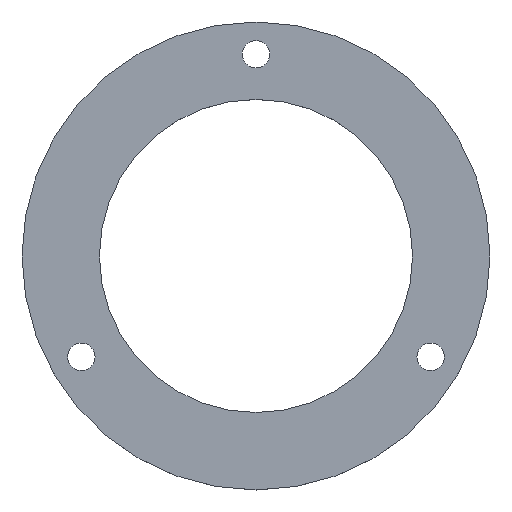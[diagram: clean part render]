
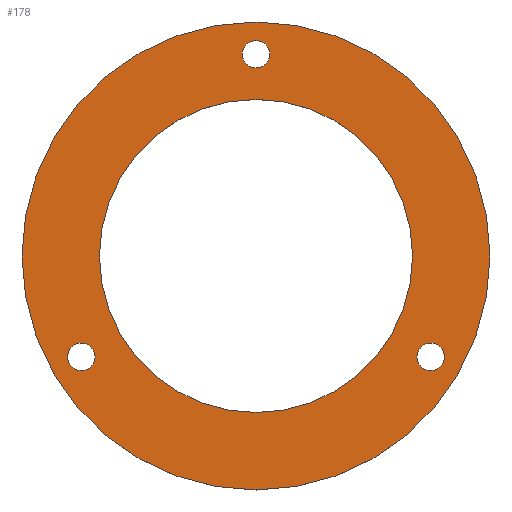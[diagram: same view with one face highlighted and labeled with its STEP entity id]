
A CAD part, top view. The second image highlights one B-rep face of the part: STEP entity #178.
In plain terms, the highlighted planar face has unit normal (0, 0, 1).
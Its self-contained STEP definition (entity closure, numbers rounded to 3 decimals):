
#40 = VERTEX_POINT('',#41);
#41 = CARTESIAN_POINT('',(29.,0.,2.2));
#50 = CYLINDRICAL_SURFACE('',#51,29.);
#51 = AXIS2_PLACEMENT_3D('',#52,#53,#54);
#52 = CARTESIAN_POINT('',(0.,0.,2.2));
#53 = DIRECTION('',(-0.,0.,1.));
#54 = DIRECTION('',(1.,0.,0.));
#97 = EDGE_CURVE('',#40,#40,#98,.T.);
#98 = SURFACE_CURVE('',#99,(#104,#111),.PCURVE_S1.);
#99 = CIRCLE('',#100,29.);
#100 = AXIS2_PLACEMENT_3D('',#101,#102,#103);
#101 = CARTESIAN_POINT('',(0.,0.,2.2));
#102 = DIRECTION('',(0.,0.,-1.));
#103 = DIRECTION('',(1.,0.,0.));
#104 = PCURVE('',#50,#105);
#105 = DEFINITIONAL_REPRESENTATION('',(#106),#110);
#106 = LINE('',#107,#108);
#107 = CARTESIAN_POINT('',(-0.,0.));
#108 = VECTOR('',#109,1.);
#109 = DIRECTION('',(-1.,0.));
#110 = ( GEOMETRIC_REPRESENTATION_CONTEXT(2) 
PARAMETRIC_REPRESENTATION_CONTEXT() REPRESENTATION_CONTEXT('2D SPACE',''
  ) );
#111 = PCURVE('',#112,#117);
#112 = PLANE('',#113);
#113 = AXIS2_PLACEMENT_3D('',#114,#115,#116);
#114 = CARTESIAN_POINT('',(0.,0.,2.2)
  );
#115 = DIRECTION('',(0.,0.,-1.));
#116 = DIRECTION('',(1.,0.,0.));
#117 = DEFINITIONAL_REPRESENTATION('',(#118),#122);
#118 = CIRCLE('',#119,29.);
#119 = AXIS2_PLACEMENT_2D('',#120,#121);
#120 = CARTESIAN_POINT('',(0.,0.));
#121 = DIRECTION('',(1.,0.));
#122 = ( GEOMETRIC_REPRESENTATION_CONTEXT(2) 
PARAMETRIC_REPRESENTATION_CONTEXT() REPRESENTATION_CONTEXT('2D SPACE',''
  ) );
#178 = ADVANCED_FACE('',(#179,#182,#213,#244,#275),#112,.F.);
#179 = FACE_BOUND('',#180,.F.);
#180 = EDGE_LOOP('',(#181));
#181 = ORIENTED_EDGE('',*,*,#97,.T.);
#182 = FACE_BOUND('',#183,.F.);
#183 = EDGE_LOOP('',(#184));
#184 = ORIENTED_EDGE('',*,*,#185,.F.);
#185 = EDGE_CURVE('',#186,#186,#188,.T.);
#186 = VERTEX_POINT('',#187);
#187 = CARTESIAN_POINT('',(1.7,25.,2.2));
#188 = SURFACE_CURVE('',#189,(#194,#201),.PCURVE_S1.);
#189 = CIRCLE('',#190,1.7);
#190 = AXIS2_PLACEMENT_3D('',#191,#192,#193);
#191 = CARTESIAN_POINT('',(0.,25.,2.2));
#192 = DIRECTION('',(0.,0.,-1.));
#193 = DIRECTION('',(1.,0.,0.));
#194 = PCURVE('',#112,#195);
#195 = DEFINITIONAL_REPRESENTATION('',(#196),#200);
#196 = CIRCLE('',#197,1.7);
#197 = AXIS2_PLACEMENT_2D('',#198,#199);
#198 = CARTESIAN_POINT('',(0.,-25.));
#199 = DIRECTION('',(1.,0.));
#200 = ( GEOMETRIC_REPRESENTATION_CONTEXT(2) 
PARAMETRIC_REPRESENTATION_CONTEXT() REPRESENTATION_CONTEXT('2D SPACE',''
  ) );
#201 = PCURVE('',#202,#207);
#202 = CYLINDRICAL_SURFACE('',#203,1.7);
#203 = AXIS2_PLACEMENT_3D('',#204,#205,#206);
#204 = CARTESIAN_POINT('',(0.,25.,2.2));
#205 = DIRECTION('',(-0.,0.,1.));
#206 = DIRECTION('',(1.,0.,0.));
#207 = DEFINITIONAL_REPRESENTATION('',(#208),#212);
#208 = LINE('',#209,#210);
#209 = CARTESIAN_POINT('',(-0.,0.));
#210 = VECTOR('',#211,1.);
#211 = DIRECTION('',(-1.,0.));
#212 = ( GEOMETRIC_REPRESENTATION_CONTEXT(2) 
PARAMETRIC_REPRESENTATION_CONTEXT() REPRESENTATION_CONTEXT('2D SPACE',''
  ) );
#213 = FACE_BOUND('',#214,.F.);
#214 = EDGE_LOOP('',(#215));
#215 = ORIENTED_EDGE('',*,*,#216,.F.);
#216 = EDGE_CURVE('',#217,#217,#219,.T.);
#217 = VERTEX_POINT('',#218);
#218 = CARTESIAN_POINT('',(-19.951,-12.5,2.2));
#219 = SURFACE_CURVE('',#220,(#225,#232),.PCURVE_S1.);
#220 = CIRCLE('',#221,1.7);
#221 = AXIS2_PLACEMENT_3D('',#222,#223,#224);
#222 = CARTESIAN_POINT('',(-21.651,-12.5,2.2));
#223 = DIRECTION('',(0.,0.,-1.));
#224 = DIRECTION('',(1.,0.,0.));
#225 = PCURVE('',#112,#226);
#226 = DEFINITIONAL_REPRESENTATION('',(#227),#231);
#227 = CIRCLE('',#228,1.7);
#228 = AXIS2_PLACEMENT_2D('',#229,#230);
#229 = CARTESIAN_POINT('',(-21.651,12.5));
#230 = DIRECTION('',(1.,0.));
#231 = ( GEOMETRIC_REPRESENTATION_CONTEXT(2) 
PARAMETRIC_REPRESENTATION_CONTEXT() REPRESENTATION_CONTEXT('2D SPACE',''
  ) );
#232 = PCURVE('',#233,#238);
#233 = CYLINDRICAL_SURFACE('',#234,1.7);
#234 = AXIS2_PLACEMENT_3D('',#235,#236,#237);
#235 = CARTESIAN_POINT('',(-21.651,-12.5,2.2));
#236 = DIRECTION('',(-0.,0.,1.));
#237 = DIRECTION('',(1.,0.,0.));
#238 = DEFINITIONAL_REPRESENTATION('',(#239),#243);
#239 = LINE('',#240,#241);
#240 = CARTESIAN_POINT('',(-0.,0.));
#241 = VECTOR('',#242,1.);
#242 = DIRECTION('',(-1.,0.));
#243 = ( GEOMETRIC_REPRESENTATION_CONTEXT(2) 
PARAMETRIC_REPRESENTATION_CONTEXT() REPRESENTATION_CONTEXT('2D SPACE',''
  ) );
#244 = FACE_BOUND('',#245,.F.);
#245 = EDGE_LOOP('',(#246));
#246 = ORIENTED_EDGE('',*,*,#247,.F.);
#247 = EDGE_CURVE('',#248,#248,#250,.T.);
#248 = VERTEX_POINT('',#249);
#249 = CARTESIAN_POINT('',(19.4,0.,2.2));
#250 = SURFACE_CURVE('',#251,(#256,#263),.PCURVE_S1.);
#251 = CIRCLE('',#252,19.4);
#252 = AXIS2_PLACEMENT_3D('',#253,#254,#255);
#253 = CARTESIAN_POINT('',(0.,0.,2.2));
#254 = DIRECTION('',(0.,0.,-1.));
#255 = DIRECTION('',(1.,0.,0.));
#256 = PCURVE('',#112,#257);
#257 = DEFINITIONAL_REPRESENTATION('',(#258),#262);
#258 = CIRCLE('',#259,19.4);
#259 = AXIS2_PLACEMENT_2D('',#260,#261);
#260 = CARTESIAN_POINT('',(0.,0.));
#261 = DIRECTION('',(1.,0.));
#262 = ( GEOMETRIC_REPRESENTATION_CONTEXT(2) 
PARAMETRIC_REPRESENTATION_CONTEXT() REPRESENTATION_CONTEXT('2D SPACE',''
  ) );
#263 = PCURVE('',#264,#269);
#264 = CYLINDRICAL_SURFACE('',#265,19.4);
#265 = AXIS2_PLACEMENT_3D('',#266,#267,#268);
#266 = CARTESIAN_POINT('',(0.,0.,2.2));
#267 = DIRECTION('',(-0.,0.,1.));
#268 = DIRECTION('',(1.,0.,0.));
#269 = DEFINITIONAL_REPRESENTATION('',(#270),#274);
#270 = LINE('',#271,#272);
#271 = CARTESIAN_POINT('',(-0.,0.));
#272 = VECTOR('',#273,1.);
#273 = DIRECTION('',(-1.,0.));
#274 = ( GEOMETRIC_REPRESENTATION_CONTEXT(2) 
PARAMETRIC_REPRESENTATION_CONTEXT() REPRESENTATION_CONTEXT('2D SPACE',''
  ) );
#275 = FACE_BOUND('',#276,.F.);
#276 = EDGE_LOOP('',(#277));
#277 = ORIENTED_EDGE('',*,*,#278,.F.);
#278 = EDGE_CURVE('',#279,#279,#281,.T.);
#279 = VERTEX_POINT('',#280);
#280 = CARTESIAN_POINT('',(23.351,-12.5,2.2));
#281 = SURFACE_CURVE('',#282,(#287,#294),.PCURVE_S1.);
#282 = CIRCLE('',#283,1.7);
#283 = AXIS2_PLACEMENT_3D('',#284,#285,#286);
#284 = CARTESIAN_POINT('',(21.651,-12.5,2.2));
#285 = DIRECTION('',(0.,0.,-1.));
#286 = DIRECTION('',(1.,0.,0.));
#287 = PCURVE('',#112,#288);
#288 = DEFINITIONAL_REPRESENTATION('',(#289),#293);
#289 = CIRCLE('',#290,1.7);
#290 = AXIS2_PLACEMENT_2D('',#291,#292);
#291 = CARTESIAN_POINT('',(21.651,12.5));
#292 = DIRECTION('',(1.,0.));
#293 = ( GEOMETRIC_REPRESENTATION_CONTEXT(2) 
PARAMETRIC_REPRESENTATION_CONTEXT() REPRESENTATION_CONTEXT('2D SPACE',''
  ) );
#294 = PCURVE('',#295,#300);
#295 = CYLINDRICAL_SURFACE('',#296,1.7);
#296 = AXIS2_PLACEMENT_3D('',#297,#298,#299);
#297 = CARTESIAN_POINT('',(21.651,-12.5,2.2));
#298 = DIRECTION('',(-0.,0.,1.));
#299 = DIRECTION('',(1.,0.,0.));
#300 = DEFINITIONAL_REPRESENTATION('',(#301),#305);
#301 = LINE('',#302,#303);
#302 = CARTESIAN_POINT('',(-0.,0.));
#303 = VECTOR('',#304,1.);
#304 = DIRECTION('',(-1.,0.));
#305 = ( GEOMETRIC_REPRESENTATION_CONTEXT(2) 
PARAMETRIC_REPRESENTATION_CONTEXT() REPRESENTATION_CONTEXT('2D SPACE',''
  ) );
